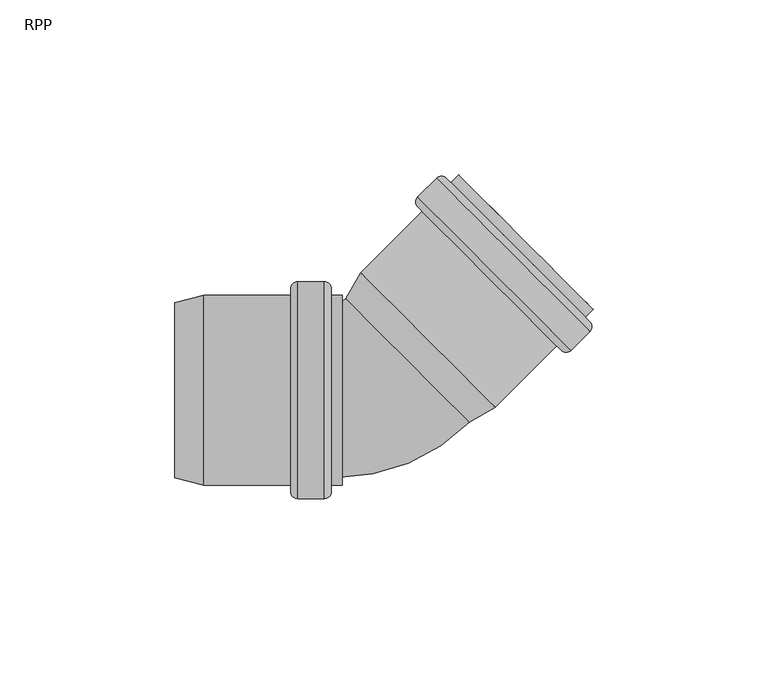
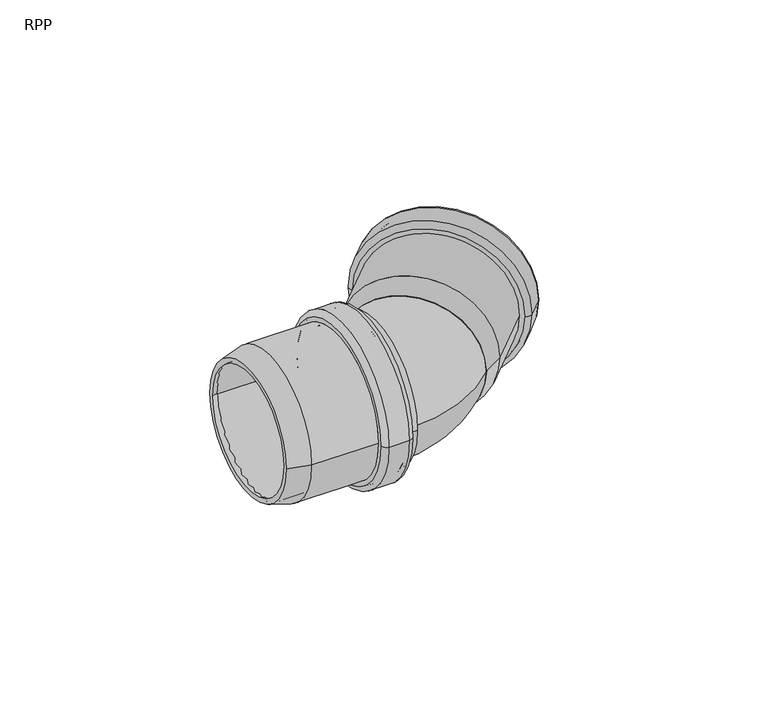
"""IFC4 building model written with IfcOpenShell, lengths in millimetres: pipe fitting geometry, RAUPIANO PLUS Bend : RPP."""

from ifc_helpers import new_model, si_unit, point, frame, origin, place, context, project, spatial, polyline, circle_curve, ellipse_curve, trimmed, source, transform, mapped, element, save
from ifc_brep_helpers import plane_surface, cylinder_surface, revolved_surface, advanced_brep


def rpp_5285ed11(model_context):
    return source(origin(), model_context, "Body", "AdvancedBrep", [
        advanced_brep(
        [(-23.0121933, -25.3, 0.0), (-23.0121933, 25.3, 0.0), (-49.5515418, 25.3, 0.0), (-49.5515418, -25.3, 0.0), (-22.5121933, -29.1, 0.0), (-22.5121933, 29.1, 0.0), (-23.0121933, 28.6, 0.0), (-23.0121933, -28.6, 0.0), (-15.7121933, -29.1, 0.0), (-15.7121933, 29.1, 0.0), (-15.2121933, -28.6, 0.0), (-15.2121933, 28.6, 0.0), (-10.2121933, -25.3, 0.0), (-10.2121933, 25.3, 0.0), (-15.2121933, 25.3, 0.0), (-15.2121933, -25.3, 0.0), (-13.3121933, -27.2, 0.0), (-13.3121933, 27.2, 0.0), (-10.2121933, 27.2, 0.0), (-10.2121933, -27.2, 0.0), (-15.3121933, -31.0, 0.0), (-15.3121933, 31.0, 0.0), (-13.3121933, 29.0, 0.0), (-13.3121933, -29.0, 0.0), (-22.9121933, -31.0, 0.0), (-22.9121933, 31.0, 0.0), (-24.9121933, -29.0, 0.0), (-24.9121933, 29.0, 0.0), (-49.8016815, -27.2, 0.0), (-49.8016815, 27.2, 0.0), (-24.9121933, 27.2, 0.0), (-24.9121933, -27.2, 0.0), (-58.0121933, -25.0, 0.0), (-58.0121933, 25.0, 0.0), (-58.0121933, 23.0329753, 0.0), (-58.0121933, -23.0329753, 0.0)],
        [
            (0, 1, circle_curve(frame((-23.0121933, 0.0, 0.0), z_axis=(1.0, 0.0, 0.0), x_axis=(0.0, 1.0, 0.0)), 25.3)),
            (1, 2),
            (2, 3, circle_curve(frame((-49.5515418, 0.0, 0.0), z_axis=(-1.0, 0.0, 0.0), x_axis=(0.0, 1.0, 0.0)), 25.3)),
            (3, 0),
            (4, 5, circle_curve(frame((-22.5121933, 0.0, 0.0), z_axis=(1.0, 0.0, 0.0), x_axis=(0.0, 1.0, 0.0)), 29.1)),
            (5, 6, circle_curve(frame((-22.5121933, 28.6, 0.0), z_axis=(0.0, 0.0, 1.0), x_axis=(0.0, -1.0, 0.0)), 0.5)),
            (6, 7, circle_curve(frame((-23.0121933, 0.0, 0.0), z_axis=(-1.0, 0.0, 0.0), x_axis=(0.0, 1.0, 0.0)), 28.6)),
            (7, 4, circle_curve(frame((-22.5121933, -28.6, 0.0), z_axis=(0.0, 0.0, 1.0), x_axis=(0.0, 1.0, 0.0)), 0.5)),
            (8, 9, circle_curve(frame((-15.7121933, 0.0, 0.0), z_axis=(1.0, 0.0, 0.0), x_axis=(0.0, 1.0, 0.0)), 29.1)),
            (9, 5),
            (4, 8),
            (10, 11, circle_curve(frame((-15.2121933, 0.0, 0.0), z_axis=(1.0, 0.0, 0.0), x_axis=(0.0, 1.0, 0.0)), 28.6)),
            (11, 9, circle_curve(frame((-15.7121933, 28.6, 0.0), z_axis=(0.0, 0.0, 1.0), x_axis=(0.0, -1.0, 0.0)), 0.5)),
            (8, 10, circle_curve(frame((-15.7121933, -28.6, 0.0), z_axis=(0.0, 0.0, 1.0), x_axis=(0.0, 1.0, 0.0)), 0.5)),
            (12, 13, circle_curve(frame((-10.2121933, 0.0, 0.0), z_axis=(1.0, 0.0, 0.0), x_axis=(0.0, 1.0, 0.0)), 25.3)),
            (13, 14),
            (14, 15, circle_curve(frame((-15.2121933, 0.0, 0.0), z_axis=(-1.0, 0.0, 0.0), x_axis=(0.0, 1.0, 0.0)), 25.3)),
            (15, 12),
            (16, 17, circle_curve(frame((-13.3121933, 0.0, 0.0), z_axis=(1.0, 0.0, 0.0), x_axis=(0.0, 1.0, 0.0)), 27.2)),
            (17, 18),
            (18, 19, circle_curve(frame((-10.2121933, 0.0, 0.0), z_axis=(-1.0, 0.0, 0.0), x_axis=(0.0, 1.0, 0.0)), 27.2)),
            (19, 16),
            (20, 21, circle_curve(frame((-15.3121933, 0.0, 0.0), z_axis=(1.0, 0.0, 0.0), x_axis=(0.0, 1.0, 0.0)), 31.0)),
            (21, 22, circle_curve(frame((-15.3121933, 29.0, 0.0), z_axis=(0.0, 0.0, -1.0), x_axis=(0.0, -1.0, 0.0)), 2.0)),
            (22, 23, circle_curve(frame((-13.3121933, 0.0, 0.0), z_axis=(-1.0, 0.0, 0.0), x_axis=(0.0, 1.0, 0.0)), 29.0)),
            (23, 20, circle_curve(frame((-15.3121933, -29.0, 0.0), z_axis=(0.0, 0.0, -1.0), x_axis=(0.0, 1.0, 0.0)), 2.0)),
            (24, 25, circle_curve(frame((-22.9121933, 0.0, 0.0), z_axis=(1.0, 0.0, 0.0), x_axis=(0.0, 1.0, 0.0)), 31.0)),
            (25, 21),
            (20, 24),
            (26, 27, circle_curve(frame((-24.9121933, 0.0, 0.0), z_axis=(1.0, 0.0, 0.0), x_axis=(0.0, 1.0, 0.0)), 29.0)),
            (27, 25, circle_curve(frame((-22.9121933, 29.0, 0.0), z_axis=(0.0, 0.0, -1.0), x_axis=(0.0, -1.0, 0.0)), 2.0)),
            (24, 26, circle_curve(frame((-22.9121933, -29.0, 0.0), z_axis=(0.0, 0.0, -1.0), x_axis=(0.0, 1.0, 0.0)), 2.0)),
            (28, 29, circle_curve(frame((-49.8016815, 0.0, 0.0), z_axis=(1.0, 0.0, 0.0), x_axis=(0.0, 1.0, 0.0)), 27.2)),
            (29, 30),
            (30, 31, circle_curve(frame((-24.9121933, 0.0, 0.0), z_axis=(-1.0, 0.0, 0.0), x_axis=(0.0, 1.0, 0.0)), 27.2)),
            (31, 28),
            (32, 33, circle_curve(frame((-58.0121933, 0.0, 0.0), z_axis=(1.0, 0.0, 0.0), x_axis=(0.0, 1.0, 0.0)), 25.0)),
            (33, 29),
            (28, 32),
            (2, 34),
            (34, 35, circle_curve(frame((-58.0121933, 0.0, 0.0), z_axis=(-1.0, 0.0, 0.0), x_axis=(0.0, 1.0, 0.0)), 23.0329753)),
            (35, 3),
            (1, 0, circle_curve(frame((-23.0121933, 0.0, 0.0), z_axis=(1.0, 0.0, 0.0), x_axis=(0.0, -1.0, 0.0)), 25.3)),
            (3, 2, circle_curve(frame((-49.5515418, 0.0, 0.0), z_axis=(-1.0, 0.0, 0.0), x_axis=(0.0, -1.0, 0.0)), 25.3)),
            (6, 7, circle_curve(frame((-23.0121933, 0.0, 0.0), z_axis=(1.0, 0.0, 0.0), x_axis=(0.0, -1.0, 0.0)), 28.6)),
            (5, 4, circle_curve(frame((-22.5121933, 0.0, 0.0), z_axis=(1.0, 0.0, 0.0), x_axis=(0.0, -1.0, 0.0)), 29.1)),
            (9, 8, circle_curve(frame((-15.7121933, 0.0, 0.0), z_axis=(1.0, 0.0, 0.0), x_axis=(0.0, -1.0, 0.0)), 29.1)),
            (11, 10, circle_curve(frame((-15.2121933, 0.0, 0.0), z_axis=(1.0, 0.0, 0.0), x_axis=(0.0, -1.0, 0.0)), 28.6)),
            (14, 15, circle_curve(frame((-15.2121933, 0.0, 0.0), z_axis=(1.0, 0.0, 0.0), x_axis=(0.0, -1.0, 0.0)), 25.3)),
            (13, 12, circle_curve(frame((-10.2121933, 0.0, 0.0), z_axis=(1.0, 0.0, 0.0), x_axis=(0.0, -1.0, 0.0)), 25.3)),
            (18, 19, circle_curve(frame((-10.2121933, 0.0, 0.0), z_axis=(1.0, 0.0, 0.0), x_axis=(0.0, -1.0, 0.0)), 27.2)),
            (17, 16, circle_curve(frame((-13.3121933, 0.0, 0.0), z_axis=(1.0, 0.0, 0.0), x_axis=(0.0, -1.0, 0.0)), 27.2)),
            (22, 23, circle_curve(frame((-13.3121933, 0.0, 0.0), z_axis=(1.0, 0.0, 0.0), x_axis=(0.0, -1.0, 0.0)), 29.0)),
            (21, 20, circle_curve(frame((-15.3121933, 0.0, 0.0), z_axis=(1.0, 0.0, 0.0), x_axis=(0.0, -1.0, 0.0)), 31.0)),
            (25, 24, circle_curve(frame((-22.9121933, 0.0, 0.0), z_axis=(1.0, 0.0, 0.0), x_axis=(0.0, -1.0, 0.0)), 31.0)),
            (27, 26, circle_curve(frame((-24.9121933, 0.0, 0.0), z_axis=(1.0, 0.0, 0.0), x_axis=(0.0, -1.0, 0.0)), 29.0)),
            (30, 31, circle_curve(frame((-24.9121933, 0.0, 0.0), z_axis=(1.0, 0.0, 0.0), x_axis=(0.0, -1.0, 0.0)), 27.2)),
            (29, 28, circle_curve(frame((-49.8016815, 0.0, 0.0), z_axis=(1.0, 0.0, 0.0), x_axis=(0.0, -1.0, 0.0)), 27.2)),
            (33, 32, circle_curve(frame((-58.0121933, 0.0, 0.0), z_axis=(1.0, 0.0, 0.0), x_axis=(0.0, -1.0, 0.0)), 25.0)),
            (34, 35, circle_curve(frame((-58.0121933, 0.0, 0.0), z_axis=(1.0, 0.0, 0.0), x_axis=(0.0, -1.0, 0.0)), 23.0329753)),
        ],
        [
            revolved_surface(polyline([(-49.5515418, 25.3, 0.0), (-23.0121933, 25.3, 0.0)]), (-58.0121933, 0.0, 0.0), (-1.0, 0.0, 0.0)),
            revolved_surface(trimmed(ellipse_curve(frame((-22.5121933, 28.6, 0.0), z_axis=(0.0, 0.0, -1.0), x_axis=(0.0, -1.0, 0.0)), 0.5, 0.5), [point((-23.0121933, 28.6, 0.0))], [point((-22.5121933, 29.1, 0.0))], True, "CARTESIAN"), (-58.0121933, 0.0, 0.0), (-1.0, 0.0, 0.0)),
            revolved_surface(polyline([(-22.5121933, 29.1, 0.0), (-15.712193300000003, 29.1, 0.0)]), (-58.0121933, 0.0, 0.0), (-1.0, 0.0, 0.0)),
            revolved_surface(trimmed(ellipse_curve(frame((-15.7121933, 28.6, 0.0), z_axis=(0.0, 0.0, -1.0), x_axis=(0.0, -1.0, 0.0)), 0.5, 0.5), [point((-15.7121933, 29.1, 0.0))], [point((-15.2121933, 28.6, 0.0))], True, "CARTESIAN"), (-58.0121933, 0.0, 0.0), (-1.0, 0.0, 0.0)),
            revolved_surface(polyline([(-15.212193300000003, 25.3, 0.0), (-10.212193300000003, 25.3, 0.0)]), (-58.0121933, 0.0, 0.0), (-1.0, 0.0, 0.0)),
            cylinder_surface(frame((-58.0121933, 0.0, 0.0), z_axis=(-1.0, 0.0, 0.0), x_axis=(0.0, 1.0, 0.0)), 27.2),
            revolved_surface(trimmed(ellipse_curve(frame((-15.3121933, 29.0, 0.0), z_axis=(0.0, 0.0, 1.0), x_axis=(0.0, -1.0, 0.0)), 2.0, 2.0), [point((-13.3121933, 29.0, 0.0))], [point((-15.3121933, 31.0, 0.0))], True, "CARTESIAN"), (-58.0121933, 0.0, 0.0), (-1.0, 0.0, 0.0)),
            cylinder_surface(frame((-58.0121933, 0.0, 0.0), z_axis=(-1.0, 0.0, 0.0), x_axis=(0.0, 1.0, 0.0)), 31.0),
            revolved_surface(trimmed(ellipse_curve(frame((-22.9121933, 29.0, 0.0), z_axis=(0.0, 0.0, 1.0), x_axis=(0.0, -1.0, 0.0)), 2.0, 2.0), [point((-22.9121933, 31.0, 0.0))], [point((-24.9121933, 29.0, 0.0))], True, "CARTESIAN"), (-58.0121933, 0.0, 0.0), (-1.0, 0.0, 0.0)),
            revolved_surface(polyline([(-49.8016815, 27.2, 0.0), (-58.0121933, 25.0, 0.0)]), (-58.0121933, 0.0, 0.0), (-1.0, 0.0, 0.0)),
            revolved_surface(polyline([(-58.0121933, 23.0329753, 0.0), (-49.5515418, 25.3, 0.0)]), (-58.0121933, 0.0, 0.0), (-1.0, 0.0, 0.0)),
            revolved_surface(polyline([(-49.5515418, -25.3, 0.0), (-23.0121933, -25.3, 0.0)]), (-58.0121933, 0.0, 0.0), (-1.0, 0.0, 0.0)),
            plane_surface(frame((-23.0121933, 0.0, 0.0), z_axis=(1.0, 0.0, 0.0), x_axis=(0.0, -1.0, 0.0))),
            revolved_surface(trimmed(ellipse_curve(frame((-22.5121933, -28.6, 0.0), z_axis=(0.0, 0.0, 1.0), x_axis=(0.0, 1.0, 0.0)), 0.5, 0.5), [point((-23.0121933, -28.6, 0.0))], [point((-22.5121933, -29.1, 0.0))], True, "CARTESIAN"), (-58.0121933, 0.0, 0.0), (-1.0, 0.0, 0.0)),
            revolved_surface(polyline([(-22.5121933, -29.1, 0.0), (-15.712193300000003, -29.1, 0.0)]), (-58.0121933, 0.0, 0.0), (-1.0, 0.0, 0.0)),
            revolved_surface(trimmed(ellipse_curve(frame((-15.7121933, -28.6, 0.0), z_axis=(0.0, 0.0, 1.0), x_axis=(0.0, 1.0, 0.0)), 0.5, 0.5), [point((-15.7121933, -29.1, 0.0))], [point((-15.2121933, -28.6, 0.0))], True, "CARTESIAN"), (-58.0121933, 0.0, 0.0), (-1.0, 0.0, 0.0)),
            plane_surface(frame((-15.2121933, 0.0, 0.0), z_axis=(-1.0, 0.0, 0.0), x_axis=(0.0, -1.0, 0.0))),
            revolved_surface(polyline([(-15.212193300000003, -25.3, 0.0), (-10.212193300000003, -25.3, 0.0)]), (-58.0121933, 0.0, 0.0), (-1.0, 0.0, 0.0)),
            plane_surface(frame((-10.2121933, 0.0, 0.0), z_axis=(1.0, 0.0, 0.0), x_axis=(0.0, -1.0, 0.0))),
            cylinder_surface(frame((-58.0121933, 0.0, 0.0), z_axis=(-1.0, 0.0, 0.0), x_axis=(0.0, -1.0, 0.0)), 27.2),
            plane_surface(frame((-13.3121933, 0.0, 0.0), z_axis=(1.0, 0.0, 0.0), x_axis=(0.0, -1.0, 0.0))),
            revolved_surface(trimmed(ellipse_curve(frame((-15.3121933, -29.0, 0.0), z_axis=(0.0, 0.0, -1.0), x_axis=(0.0, 1.0, 0.0)), 2.0, 2.0), [point((-13.3121933, -29.0, 0.0))], [point((-15.3121933, -31.0, 0.0))], True, "CARTESIAN"), (-58.0121933, 0.0, 0.0), (-1.0, 0.0, 0.0)),
            cylinder_surface(frame((-58.0121933, 0.0, 0.0), z_axis=(-1.0, 0.0, 0.0), x_axis=(0.0, -1.0, 0.0)), 31.0),
            revolved_surface(trimmed(ellipse_curve(frame((-22.9121933, -29.0, 0.0), z_axis=(0.0, 0.0, -1.0), x_axis=(0.0, 1.0, 0.0)), 2.0, 2.0), [point((-22.9121933, -31.0, 0.0))], [point((-24.9121933, -29.0, 0.0))], True, "CARTESIAN"), (-58.0121933, 0.0, 0.0), (-1.0, 0.0, 0.0)),
            plane_surface(frame((-24.9121933, 0.0, 0.0), z_axis=(-1.0, 0.0, 0.0), x_axis=(0.0, -1.0, 0.0))),
            revolved_surface(polyline([(-49.8016815, -27.2, 0.0), (-58.0121933, -25.0, 0.0)]), (-58.0121933, 0.0, 0.0), (-1.0, 0.0, 0.0)),
            plane_surface(frame((-58.0121933, 0.0, 0.0), z_axis=(-1.0, 0.0, 0.0), x_axis=(0.0, -1.0, 0.0))),
            revolved_surface(polyline([(-58.0121933, -23.0329753, 0.0), (-49.5515418, -25.3, 0.0)]), (-58.0121933, 0.0, 0.0), (-1.0, 0.0, 0.0)),
        ],
        [
            (0, [[1, 2, 3, 4]]),
            (1, [[5, 6, 7, 8]]),
            (2, [[9, 10, -5, 11]]),
            (3, [[12, 13, -9, 14]]),
            (4, [[15, 16, 17, 18]]),
            (5, [[19, 20, 21, 22]]),
            (6, [[23, 24, 25, 26]]),
            (7, [[27, 28, -23, 29]]),
            (8, [[30, 31, -27, 32]]),
            (5, [[33, 34, 35, 36]]),
            (9, [[37, 38, -33, 39]]),
            (10, [[-3, 40, 41, 42]]),
            (11, [[43, -4, 44, -2]]),
            (12, [[45, -7], [-43, -1]]),
            (13, [[46, -8, -45, -6]]),
            (14, [[47, -11, -46, -10]]),
            (15, [[48, -14, -47, -13]]),
            (16, [[-48, -12], [49, -17]]),
            (17, [[50, -18, -49, -16]]),
            (18, [[51, -21], [-50, -15]]),
            (19, [[52, -22, -51, -20]]),
            (20, [[53, -25], [-52, -19]]),
            (21, [[54, -26, -53, -24]]),
            (22, [[55, -29, -54, -28]]),
            (23, [[56, -32, -55, -31]]),
            (24, [[-56, -30], [57, -35]]),
            (19, [[58, -36, -57, -34]]),
            (25, [[59, -39, -58, -38]]),
            (26, [[-59, -37], [60, -41]]),
            (27, [[-44, -42, -60, -40]]),
        ],
    ),
        advanced_brep(
        [(24.7806763, -7.7928696, 0.0), (-7.7928696, 24.7806763, 0.0), (-3.4133142, 32.366289, 0.0), (32.366289, -3.4133142, 0.0), (33.5329163, -4.9336925, 0.0), (-4.9336925, 33.5329163, 0.0), (-9.1837662, 26.1715729, 0.0), (26.1715729, -9.1837662, 0.0), (51.1324423, 12.6658334, 0.0), (12.6658334, 51.1324423, 0.0), (60.6076731, 16.7670527, 0.0), (16.7670527, 60.6076731, 0.0), (11.3930411, 55.2336616, 0.0), (55.2336616, 11.3930411, 0.0), (61.5269119, 23.060303, 0.0), (23.060303, 61.5269119, 0.0), (20.868272, 59.3348809, 0.0), (59.3348809, 20.868272, 0.0), (56.6478751, 20.868272, 0.0), (20.868272, 56.6478751, 0.0), (24.4038059, 60.1834091, 0.0), (60.1834091, 24.4038059, 0.0), (54.1730014, 13.0193867, 0.0), (13.0193867, 54.1730014, 0.0), (17.8277129, 58.9813275, 0.0), (58.9813275, 17.8277129, 0.0), (15.3528391, 51.1324423, 0.0), (51.1324423, 15.3528391, 0.0), (11.3930411, 52.4052345, 0.0), (52.4052345, 11.3930411, 0.0), (60.6076731, 19.5954798, 0.0), (19.5954798, 60.6076731, 0.0), (18.5348196, 58.9813275, 0.0), (58.9813275, 18.5348196, 0.0), (53.4658946, 13.0193867, 0.0), (13.0193867, 53.4658946, 0.0)],
        [
            (0, 1, circle_curve(frame((8.4939033, 8.4939033, 0.0), z_axis=(-0.7071067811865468, -0.7071067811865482, 0.0), x_axis=(-0.7071067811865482, 0.7071067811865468, 0.0)), 23.0329753)),
            (1, 2),
            (2, 3, circle_curve(frame((14.4764874, 14.4764874, 0.0), z_axis=(0.7071067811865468, 0.7071067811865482, 0.0), x_axis=(-0.7071067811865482, 0.7071067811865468, 0.0)), 25.3)),
            (3, 0),
            (4, 5, circle_curve(frame((14.2996119, 14.2996119, 0.0), z_axis=(-0.7071067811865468, -0.7071067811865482, 0.0), x_axis=(-0.7071067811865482, 0.7071067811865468, 0.0)), 27.2)),
            (5, 6),
            (6, 7, circle_curve(frame((8.4939033, 8.4939033, 0.0), z_axis=(0.7071067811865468, 0.7071067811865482, 0.0), x_axis=(-0.7071067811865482, 0.7071067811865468, 0.0)), 25.0)),
            (7, 4),
            (8, 9, circle_curve(frame((31.8991378, 31.8991378, 0.0), z_axis=(-0.7071067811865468, -0.7071067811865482, 0.0), x_axis=(-0.7071067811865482, 0.7071067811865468, 0.0)), 27.2)),
            (9, 5),
            (4, 8),
            (10, 11, circle_curve(frame((38.6873629, 38.6873629, 0.0), z_axis=(-0.7071067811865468, -0.7071067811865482, 0.0), x_axis=(-0.7071067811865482, 0.7071067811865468, 0.0)), 31.0)),
            (11, 12),
            (12, 13, circle_curve(frame((33.3133514, 33.3133514, 0.0), z_axis=(0.7071067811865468, 0.7071067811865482, 0.0), x_axis=(-0.7071067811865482, 0.7071067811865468, 0.0)), 31.0)),
            (13, 10),
            (14, 15, circle_curve(frame((42.2936075, 42.2936075, 0.0), z_axis=(-0.7071067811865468, -0.7071067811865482, 0.0), x_axis=(-0.7071067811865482, 0.7071067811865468, 0.0)), 27.2)),
            (15, 16),
            (16, 17, circle_curve(frame((40.1015765, 40.1015765, 0.0), z_axis=(0.7071067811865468, 0.7071067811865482, 0.0), x_axis=(-0.7071067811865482, 0.7071067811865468, 0.0)), 27.2)),
            (17, 14),
            (18, 19, circle_curve(frame((38.7580736, 38.7580736, 0.0), z_axis=(-0.7071067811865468, -0.7071067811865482, 0.0), x_axis=(-0.7071067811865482, 0.7071067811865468, 0.0)), 25.3)),
            (19, 20),
            (20, 21, circle_curve(frame((42.2936075, 42.2936075, 0.0), z_axis=(0.7071067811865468, 0.7071067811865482, 0.0), x_axis=(-0.7071067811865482, 0.7071067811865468, 0.0)), 25.3)),
            (21, 18),
            (22, 23, circle_curve(frame((33.5961941, 33.5961941, 0.0), z_axis=(-0.7071067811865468, -0.7071067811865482, 0.0), x_axis=(-0.7071067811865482, 0.7071067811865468, 0.0)), 29.1)),
            (23, 24),
            (24, 25, circle_curve(frame((38.4045202, 38.4045202, 0.0), z_axis=(0.7071067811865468, 0.7071067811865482, 0.0), x_axis=(-0.7071067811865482, 0.7071067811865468, 0.0)), 29.1)),
            (25, 22),
            (2, 26),
            (26, 27, circle_curve(frame((33.2426407, 33.2426407, 0.0), z_axis=(0.7071067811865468, 0.7071067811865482, 0.0), x_axis=(-0.7071067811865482, 0.7071067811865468, 0.0)), 25.3)),
            (27, 3),
            (1, 0, circle_curve(frame((8.4939033, 8.4939033, 0.0), z_axis=(-0.7071067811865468, -0.7071067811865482, 0.0), x_axis=(0.7071067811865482, -0.7071067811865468, 0.0)), 23.0329753)),
            (3, 2, circle_curve(frame((14.4764874, 14.4764874, 0.0), z_axis=(0.7071067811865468, 0.7071067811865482, 0.0), x_axis=(0.7071067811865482, -0.7071067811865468, 0.0)), 25.3)),
            (6, 7, circle_curve(frame((8.4939033, 8.4939033, 0.0), z_axis=(-0.7071067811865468, -0.7071067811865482, 0.0), x_axis=(0.7071067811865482, -0.7071067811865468, 0.0)), 25.0)),
            (5, 4, circle_curve(frame((14.2996119, 14.2996119, 0.0), z_axis=(-0.7071067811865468, -0.7071067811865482, 0.0), x_axis=(0.7071067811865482, -0.7071067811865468, 0.0)), 27.2)),
            (9, 8, circle_curve(frame((31.8991378, 31.8991378, 0.0), z_axis=(-0.7071067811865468, -0.7071067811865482, 0.0), x_axis=(0.7071067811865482, -0.7071067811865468, 0.0)), 27.2)),
            (28, 29, circle_curve(frame((31.8991378, 31.8991378, 0.0), z_axis=(-0.7071067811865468, -0.7071067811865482, 0.0), x_axis=(0.7071067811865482, -0.7071067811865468, 0.0)), 29.0)),
            (29, 28, circle_curve(frame((31.8991378, 31.8991378, 0.0), z_axis=(-0.7071067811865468, -0.7071067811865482, 0.0), x_axis=(-0.7071067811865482, 0.7071067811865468, 0.0)), 29.0)),
            (11, 10, circle_curve(frame((38.6873629, 38.6873629, 0.0), z_axis=(-0.7071067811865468, -0.7071067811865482, 0.0), x_axis=(0.7071067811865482, -0.7071067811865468, 0.0)), 31.0)),
            (13, 12, circle_curve(frame((33.3133514, 33.3133514, 0.0), z_axis=(0.7071067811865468, 0.7071067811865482, 0.0), x_axis=(0.7071067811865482, -0.7071067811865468, 0.0)), 31.0)),
            (30, 31, circle_curve(frame((40.1015765, 40.1015765, 0.0), z_axis=(0.7071067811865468, 0.7071067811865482, 0.0), x_axis=(0.7071067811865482, -0.7071067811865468, 0.0)), 29.0)),
            (31, 30, circle_curve(frame((40.1015765, 40.1015765, 0.0), z_axis=(0.7071067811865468, 0.7071067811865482, 0.0), x_axis=(-0.7071067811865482, 0.7071067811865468, 0.0)), 29.0)),
            (16, 17, circle_curve(frame((40.1015765, 40.1015765, 0.0), z_axis=(-0.7071067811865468, -0.7071067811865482, 0.0), x_axis=(0.7071067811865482, -0.7071067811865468, 0.0)), 27.2)),
            (15, 14, circle_curve(frame((42.2936075, 42.2936075, 0.0), z_axis=(-0.7071067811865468, -0.7071067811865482, 0.0), x_axis=(0.7071067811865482, -0.7071067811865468, 0.0)), 27.2)),
            (20, 21, circle_curve(frame((42.2936075, 42.2936075, 0.0), z_axis=(-0.7071067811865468, -0.7071067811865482, 0.0), x_axis=(0.7071067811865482, -0.7071067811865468, 0.0)), 25.3)),
            (19, 18, circle_curve(frame((38.7580736, 38.7580736, 0.0), z_axis=(-0.7071067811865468, -0.7071067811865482, 0.0), x_axis=(0.7071067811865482, -0.7071067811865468, 0.0)), 25.3)),
            (32, 33, circle_curve(frame((38.7580736, 38.7580736, 0.0), z_axis=(-0.7071067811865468, -0.7071067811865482, 0.0), x_axis=(0.7071067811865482, -0.7071067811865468, 0.0)), 28.6)),
            (33, 32, circle_curve(frame((38.7580736, 38.7580736, 0.0), z_axis=(-0.7071067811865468, -0.7071067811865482, 0.0), x_axis=(-0.7071067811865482, 0.7071067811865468, 0.0)), 28.6)),
            (23, 22, circle_curve(frame((33.5961941, 33.5961941, 0.0), z_axis=(-0.7071067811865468, -0.7071067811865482, 0.0), x_axis=(0.7071067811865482, -0.7071067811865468, 0.0)), 29.1)),
            (25, 24, circle_curve(frame((38.4045202, 38.4045202, 0.0), z_axis=(0.7071067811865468, 0.7071067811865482, 0.0), x_axis=(0.7071067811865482, -0.7071067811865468, 0.0)), 29.1)),
            (34, 35, circle_curve(frame((33.2426407, 33.2426407, 0.0), z_axis=(0.7071067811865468, 0.7071067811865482, 0.0), x_axis=(0.7071067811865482, -0.7071067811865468, 0.0)), 28.6)),
            (35, 34, circle_curve(frame((33.2426407, 33.2426407, 0.0), z_axis=(0.7071067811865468, 0.7071067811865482, 0.0), x_axis=(-0.7071067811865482, 0.7071067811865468, 0.0)), 28.6)),
            (26, 27, circle_curve(frame((33.2426407, 33.2426407, 0.0), z_axis=(-0.7071067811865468, -0.7071067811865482, 0.0), x_axis=(0.7071067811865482, -0.7071067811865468, 0.0)), 25.3)),
            (12, 28, circle_curve(frame((12.8072547, 53.819448, 0.0), z_axis=(0.0, 0.0, 1.0), x_axis=(0.7071067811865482, -0.7071067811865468, 0.0)), 2.0)),
            (29, 13, circle_curve(frame((53.819448, 12.8072547, 0.0), z_axis=(0.0, 0.0, 1.0), x_axis=(-0.7071067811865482, 0.7071067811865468, 0.0)), 2.0)),
            (31, 11, circle_curve(frame((18.1812662, 59.1934596, 0.0), z_axis=(0.0, 0.0, 1.0), x_axis=(0.7071067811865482, -0.7071067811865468, 0.0)), 2.0)),
            (10, 30, circle_curve(frame((59.1934596, 18.1812662, 0.0), z_axis=(0.0, 0.0, 1.0), x_axis=(-0.7071067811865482, 0.7071067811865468, 0.0)), 2.0)),
            (24, 32, circle_curve(frame((18.1812662, 58.6277741, 0.0), z_axis=(0.0, 0.0, -1.0), x_axis=(0.7071067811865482, -0.7071067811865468, 0.0)), 0.5)),
            (33, 25, circle_curve(frame((58.6277741, 18.1812662, 0.0), z_axis=(0.0, 0.0, -1.0), x_axis=(-0.7071067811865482, 0.7071067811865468, 0.0)), 0.5)),
            (35, 23, circle_curve(frame((13.3729401, 53.819448, 0.0), z_axis=(0.0, 0.0, -1.0), x_axis=(0.7071067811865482, -0.7071067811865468, 0.0)), 0.5)),
            (22, 34, circle_curve(frame((53.819448, 13.3729401, 0.0), z_axis=(0.0, 0.0, -1.0), x_axis=(-0.7071067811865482, 0.7071067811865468, 0.0)), 0.5)),
        ],
        [
            revolved_surface(polyline([(-3.4133142, 32.366289, 0.0), (-7.7928696, 24.7806763, 0.0)]), (8.4939033, 8.4939033, 0.0), (0.7071067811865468, 0.7071067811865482, 0.0)),
            revolved_surface(polyline([(-9.1837662, 26.1715729, 0.0), (-4.9336925, 33.5329163, 0.0)]), (8.4939033, 8.4939033, 0.0), (0.7071067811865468, 0.7071067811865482, 0.0)),
            cylinder_surface(frame((8.4939033, 8.4939033, 0.0), z_axis=(0.7071067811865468, 0.7071067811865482, 0.0), x_axis=(-0.7071067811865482, 0.7071067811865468, 0.0)), 27.2),
            cylinder_surface(frame((8.4939033, 8.4939033, 0.0), z_axis=(0.7071067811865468, 0.7071067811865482, 0.0), x_axis=(-0.7071067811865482, 0.7071067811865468, 0.0)), 31.0),
            revolved_surface(polyline([(24.403805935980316, 60.183409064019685, 0.0), (20.86827198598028, 56.64787511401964, 0.0)]), (8.4939033, 8.4939033, 0.0), (0.7071067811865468, 0.7071067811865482, 0.0)),
            revolved_surface(polyline([(17.827712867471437, 58.98132753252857, 0.0), (13.019386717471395, 54.17300138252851, 0.0)]), (8.4939033, 8.4939033, 0.0), (0.7071067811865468, 0.7071067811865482, 0.0)),
            revolved_surface(polyline([(15.352839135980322, 51.13244226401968, 0.0), (-3.4133141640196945, 32.366288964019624, 0.0)]), (8.4939033, 8.4939033, 0.0), (0.7071067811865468, 0.7071067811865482, 0.0)),
            revolved_surface(polyline([(32.366289, -3.4133142, 0.0), (24.7806763, -7.7928696, 0.0)]), (8.4939033, 8.4939033, 0.0), (0.7071067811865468, 0.7071067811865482, 0.0)),
            plane_surface(frame((8.4939033, 8.4939033, 0.0), z_axis=(-0.7071067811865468, -0.7071067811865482, 0.0), x_axis=(0.7071067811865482, -0.7071067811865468, 0.0))),
            revolved_surface(polyline([(26.1715729, -9.1837662, 0.0), (33.5329163, -4.9336925, 0.0)]), (8.4939033, 8.4939033, 0.0), (0.7071067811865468, 0.7071067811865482, 0.0)),
            cylinder_surface(frame((8.4939033, 8.4939033, 0.0), z_axis=(0.7071067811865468, 0.7071067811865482, 0.0), x_axis=(0.7071067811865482, -0.7071067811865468, 0.0)), 27.2),
            plane_surface(frame((31.8991378, 31.8991378, 0.0), z_axis=(-0.7071067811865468, -0.7071067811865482, 0.0), x_axis=(0.7071067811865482, -0.7071067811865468, 0.0))),
            cylinder_surface(frame((8.4939033, 8.4939033, 0.0), z_axis=(0.7071067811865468, 0.7071067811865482, 0.0), x_axis=(0.7071067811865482, -0.7071067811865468, 0.0)), 31.0),
            plane_surface(frame((40.1015765, 40.1015765, 0.0), z_axis=(0.7071067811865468, 0.7071067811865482, 0.0), x_axis=(0.7071067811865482, -0.7071067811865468, 0.0))),
            plane_surface(frame((42.2936075, 42.2936075, 0.0), z_axis=(0.7071067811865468, 0.7071067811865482, 0.0), x_axis=(0.7071067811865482, -0.7071067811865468, 0.0))),
            revolved_surface(polyline([(60.183409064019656, 24.403805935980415, 0.0), (56.64787511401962, 20.868271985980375, 0.0)]), (8.4939033, 8.4939033, 0.0), (0.7071067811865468, 0.7071067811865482, 0.0)),
            plane_surface(frame((38.7580736, 38.7580736, 0.0), z_axis=(-0.7071067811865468, -0.7071067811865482, 0.0), x_axis=(0.7071067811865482, -0.7071067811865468, 0.0))),
            revolved_surface(polyline([(58.98132753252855, 17.82771286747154, 0.0), (54.17300138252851, 13.019386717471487, 0.0)]), (8.4939033, 8.4939033, 0.0), (0.7071067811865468, 0.7071067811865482, 0.0)),
            plane_surface(frame((33.2426407, 33.2426407, 0.0), z_axis=(0.7071067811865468, 0.7071067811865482, 0.0), x_axis=(0.7071067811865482, -0.7071067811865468, 0.0))),
            revolved_surface(polyline([(51.13244226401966, 15.35283913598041, 0.0), (32.366288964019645, -3.4133141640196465, 0.0)]), (8.4939033, 8.4939033, 0.0), (0.7071067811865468, 0.7071067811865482, 0.0)),
            revolved_surface(trimmed(ellipse_curve(frame((12.8072547, 53.819448, 0.0), z_axis=(0.0, 0.0, -1.0), x_axis=(0.7071067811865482, -0.7071067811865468, 0.0)), 2.0, 2.0), [point((11.3930411, 52.4052345, 0.0))], [point((11.3930411, 55.2336616, 0.0))], True, "CARTESIAN"), (8.4939033, 8.4939033, 0.0), (0.7071067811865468, 0.7071067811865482, 0.0)),
            revolved_surface(trimmed(ellipse_curve(frame((18.1812662, 59.1934596, 0.0), z_axis=(0.0, 0.0, -1.0), x_axis=(0.7071067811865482, -0.7071067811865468, 0.0)), 2.0, 2.0), [point((16.7670527, 60.6076731, 0.0))], [point((19.5954798, 60.6076731, 0.0))], True, "CARTESIAN"), (8.4939033, 8.4939033, 0.0), (0.7071067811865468, 0.7071067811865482, 0.0)),
            revolved_surface(trimmed(ellipse_curve(frame((18.1812662, 58.6277741, 0.0), z_axis=(0.0, 0.0, 1.0), x_axis=(0.7071067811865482, -0.7071067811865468, 0.0)), 0.5, 0.5), [point((18.5348196, 58.9813275, 0.0))], [point((17.8277129, 58.9813275, 0.0))], True, "CARTESIAN"), (8.4939033, 8.4939033, 0.0), (0.7071067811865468, 0.7071067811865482, 0.0)),
            revolved_surface(trimmed(ellipse_curve(frame((13.3729401, 53.819448, 0.0), z_axis=(0.0, 0.0, 1.0), x_axis=(0.7071067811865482, -0.7071067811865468, 0.0)), 0.5, 0.5), [point((13.0193867, 54.1730014, 0.0))], [point((13.0193867, 53.4658946, 0.0))], True, "CARTESIAN"), (8.4939033, 8.4939033, 0.0), (0.7071067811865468, 0.7071067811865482, 0.0)),
            revolved_surface(trimmed(ellipse_curve(frame((53.819448, 12.8072547, 0.0), z_axis=(0.0, 0.0, 1.0), x_axis=(-0.7071067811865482, 0.7071067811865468, 0.0)), 2.0, 2.0), [point((52.4052345, 11.3930411, 0.0))], [point((55.2336616, 11.3930411, 0.0))], True, "CARTESIAN"), (8.4939033, 8.4939033, 0.0), (0.7071067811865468, 0.7071067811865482, 0.0)),
            revolved_surface(trimmed(ellipse_curve(frame((59.1934596, 18.1812662, 0.0), z_axis=(0.0, 0.0, 1.0), x_axis=(-0.7071067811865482, 0.7071067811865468, 0.0)), 2.0, 2.0), [point((60.6076731, 16.7670527, 0.0))], [point((60.6076731, 19.5954798, 0.0))], True, "CARTESIAN"), (8.4939033, 8.4939033, 0.0), (0.7071067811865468, 0.7071067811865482, 0.0)),
            revolved_surface(trimmed(ellipse_curve(frame((58.6277741, 18.1812662, 0.0), z_axis=(0.0, 0.0, -1.0), x_axis=(-0.7071067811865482, 0.7071067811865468, 0.0)), 0.5, 0.5), [point((58.9813275, 18.5348196, 0.0))], [point((58.9813275, 17.8277129, 0.0))], True, "CARTESIAN"), (8.4939033, 8.4939033, 0.0), (0.7071067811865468, 0.7071067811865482, 0.0)),
            revolved_surface(trimmed(ellipse_curve(frame((53.819448, 13.3729401, 0.0), z_axis=(0.0, 0.0, -1.0), x_axis=(-0.7071067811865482, 0.7071067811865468, 0.0)), 0.5, 0.5), [point((54.1730014, 13.0193867, 0.0))], [point((53.4658946, 13.0193867, 0.0))], True, "CARTESIAN"), (8.4939033, 8.4939033, 0.0), (0.7071067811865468, 0.7071067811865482, 0.0)),
        ],
        [
            (0, [[1, 2, 3, 4]]),
            (1, [[5, 6, 7, 8]]),
            (2, [[9, 10, -5, 11]]),
            (3, [[12, 13, 14, 15]]),
            (2, [[16, 17, 18, 19]]),
            (4, [[20, 21, 22, 23]]),
            (5, [[24, 25, 26, 27]]),
            (6, [[-3, 28, 29, 30]]),
            (7, [[31, -4, 32, -2]]),
            (8, [[33, -7], [-31, -1]]),
            (9, [[34, -8, -33, -6]]),
            (10, [[35, -11, -34, -10]]),
            (11, [[36, 37], [-35, -9]]),
            (12, [[38, -15, 39, -13]]),
            (13, [[40, 41], [42, -18]]),
            (10, [[43, -19, -42, -17]]),
            (14, [[-43, -16], [44, -22]]),
            (15, [[45, -23, -44, -21]]),
            (16, [[46, 47], [-45, -20]]),
            (17, [[48, -27, 49, -25]]),
            (18, [[50, 51], [52, -29]]),
            (19, [[-32, -30, -52, -28]]),
            (20, [[-14, 53, -37, 54]]),
            (21, [[-41, 55, -12, 56]]),
            (22, [[-26, 57, -47, 58]]),
            (23, [[-51, 59, -24, 60]]),
            (24, [[-39, -54, -36, -53]]),
            (25, [[-40, -56, -38, -55]]),
            (26, [[-49, -58, -46, -57]]),
            (27, [[-50, -60, -48, -59]]),
        ],
    ),
        advanced_brep(
        [(-12.0121933, 23.2, 0.0), (-12.0121933, -23.2, 0.0), (-58.0121933, -23.2, 0.0), (-58.0121933, 23.2, 0.0), (-54.2801425, 25.0, 0.0), (-54.2801425, -25.0, 0.0), (-12.0121933, -25.0, 0.0), (-12.0121933, 25.0, 0.0), (-58.0121933, 24.0, 0.0), (-58.0121933, -24.0, 0.0)],
        [
            (0, 1, circle_curve(frame((-12.0121933, 0.0, 0.0), z_axis=(1.0, 0.0, 0.0), x_axis=(0.0, -1.0, 0.0)), 23.2)),
            (1, 2),
            (2, 3, circle_curve(frame((-58.0121933, 0.0, 0.0), z_axis=(-1.0, 0.0, 0.0), x_axis=(0.0, -1.0, 0.0)), 23.2)),
            (3, 0),
            (4, 5, circle_curve(frame((-54.2801425, 0.0, 0.0), z_axis=(1.0, 0.0, 0.0), x_axis=(0.0, -1.0, 0.0)), 25.0)),
            (5, 6),
            (6, 7, circle_curve(frame((-12.0121933, 0.0, 0.0), z_axis=(-1.0, 0.0, 0.0), x_axis=(0.0, -1.0, 0.0)), 25.0)),
            (7, 4),
            (8, 9, circle_curve(frame((-58.0121933, 0.0, 0.0), z_axis=(1.0, 0.0, 0.0), x_axis=(0.0, -1.0, 0.0)), 24.0)),
            (9, 5),
            (4, 8),
            (1, 0, circle_curve(frame((-12.0121933, 0.0, 0.0), z_axis=(1.0, 0.0, 0.0), x_axis=(0.0, 1.0, 0.0)), 23.2)),
            (3, 2, circle_curve(frame((-58.0121933, 0.0, 0.0), z_axis=(-1.0, 0.0, 0.0), x_axis=(0.0, 1.0, 0.0)), 23.2)),
            (6, 7, circle_curve(frame((-12.0121933, 0.0, 0.0), z_axis=(1.0, 0.0, 0.0), x_axis=(0.0, 1.0, 0.0)), 25.0)),
            (5, 4, circle_curve(frame((-54.2801425, 0.0, 0.0), z_axis=(1.0, 0.0, 0.0), x_axis=(0.0, 1.0, 0.0)), 25.0)),
            (9, 8, circle_curve(frame((-58.0121933, 0.0, 0.0), z_axis=(1.0, 0.0, 0.0), x_axis=(0.0, 1.0, 0.0)), 24.0)),
        ],
        [
            revolved_surface(polyline([(-58.0121933, -23.2, 0.0), (-12.0121933, -23.2, 0.0)]), (-12.0121933, 0.0, 0.0), (-1.0, 0.0, 0.0)),
            cylinder_surface(frame((-12.0121933, 0.0, 0.0), z_axis=(-1.0, 0.0, 0.0), x_axis=(0.0, -1.0, 0.0)), 25.0),
            revolved_surface(polyline([(-54.2801425, -25.0, 0.0), (-58.0121933, -24.0, 0.0)]), (-12.0121933, 0.0, 0.0), (-1.0, 0.0, 0.0)),
            revolved_surface(polyline([(-58.0121933, 23.2, 0.0), (-12.0121933, 23.2, 0.0)]), (-12.0121933, 0.0, 0.0), (-1.0, 0.0, 0.0)),
            plane_surface(frame((-12.0121933, 0.0, 0.0), z_axis=(1.0, 0.0, 0.0), x_axis=(0.0, 1.0, 0.0))),
            cylinder_surface(frame((-12.0121933, 0.0, 0.0), z_axis=(-1.0, 0.0, 0.0), x_axis=(0.0, 1.0, 0.0)), 25.0),
            revolved_surface(polyline([(-54.2801425, 25.0, 0.0), (-58.0121933, 24.0, 0.0)]), (-12.0121933, 0.0, 0.0), (-1.0, 0.0, 0.0)),
            plane_surface(frame((-58.0121933, 0.0, 0.0), z_axis=(-1.0, 0.0, 0.0), x_axis=(0.0, 1.0, 0.0))),
        ],
        [
            (0, [[1, 2, 3, 4]]),
            (1, [[5, 6, 7, 8]]),
            (2, [[9, 10, -5, 11]]),
            (3, [[12, -4, 13, -2]]),
            (4, [[14, -7], [-12, -1]]),
            (5, [[15, -8, -14, -6]]),
            (6, [[16, -11, -15, -10]]),
            (7, [[-16, -9], [-13, -3]]),
        ],
    ),
        advanced_brep(
        [(-12.0121933, -25.0, 0.0), (-12.0121933, 25.0, 0.0), (-12.0121933, -23.2, 0.0), (-12.0121933, 23.2, 0.0), (26.1715729, -9.1837662, 0.0), (-9.1837662, 26.1715729, 0.0), (24.8987807, -7.910974, 0.0), (-7.910974, 24.8987807, 0.0)],
        [
            (0, 1, circle_curve(frame((-12.0121933, 0.0, 0.0), z_axis=(-1.0, 0.0, 0.0), x_axis=(0.0, 1.0, 0.0)), 25.0)),
            (1, 0, circle_curve(frame((-12.0121933, 0.0, 0.0), z_axis=(-1.0, 0.0, 0.0), x_axis=(0.0, 1.0, 0.0)), 25.0)),
            (2, 3, circle_curve(frame((-12.0121933, 0.0, 0.0), z_axis=(1.0, 0.0, 0.0), x_axis=(0.0, 1.0, 0.0)), 23.2)),
            (3, 2, circle_curve(frame((-12.0121933, 0.0, 0.0), z_axis=(1.0, 0.0, 0.0), x_axis=(0.0, 1.0, 0.0)), 23.2)),
            (4, 5, circle_curve(frame((8.4939033, 8.4939033, 0.0), z_axis=(0.7071067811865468, 0.7071067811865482, 0.0), x_axis=(-0.7071067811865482, 0.7071067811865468, 0.0)), 25.0)),
            (5, 4, circle_curve(frame((8.4939033, 8.4939033, 0.0), z_axis=(0.7071067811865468, 0.7071067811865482, 0.0), x_axis=(-0.7071067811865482, 0.7071067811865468, 0.0)), 25.0)),
            (6, 7, circle_curve(frame((8.4939033, 8.4939033, 0.0), z_axis=(-0.7071067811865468, -0.7071067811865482, 0.0), x_axis=(-0.7071067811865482, 0.7071067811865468, 0.0)), 23.2)),
            (7, 6, circle_curve(frame((8.4939033, 8.4939033, 0.0), z_axis=(-0.7071067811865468, -0.7071067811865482, 0.0), x_axis=(-0.7071067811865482, 0.7071067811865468, 0.0)), 23.2)),
            (7, 3, circle_curve(frame((-12.0121933, 29.0, 0.0), z_axis=(0.0, 0.0, -1.0), x_axis=(0.0, -1.0, 0.0)), 5.8)),
            (2, 6, circle_curve(frame((-12.0121933, 29.0, 0.0), z_axis=(0.0, 0.0, 1.0), x_axis=(0.0, -1.0, 0.0)), 52.2)),
            (5, 1, circle_curve(frame((-12.0121933, 29.0, 0.0), z_axis=(0.0, 0.0, -1.0), x_axis=(0.0, -1.0, 0.0)), 4.0)),
            (0, 4, circle_curve(frame((-12.0121933, 29.0, 0.0), z_axis=(0.0, 0.0, 1.0), x_axis=(0.0, -1.0, 0.0)), 54.0)),
        ],
        [
            plane_surface(frame((-12.0121933, 0.0, 0.0), z_axis=(-1.0, 0.0, 0.0), x_axis=(0.0, 0.0, 1.0))),
            plane_surface(frame((8.4939033, 8.4939033, 0.0), z_axis=(0.7071067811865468, 0.7071067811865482, 0.0), x_axis=(0.0, 0.0, 1.0))),
            revolved_surface(trimmed(ellipse_curve(frame((-12.0121933, 0.0, 0.0), z_axis=(1.0, 0.0, 0.0), x_axis=(0.0, 1.0, 0.0)), 23.2, 23.2), [point((-12.0121933, -23.2, 0.0))], [point((-12.0121933, 23.2, 0.0))], True, "CARTESIAN"), (-12.0121933, 29.0, 0.0), (0.0, 0.0, 1.0)),
            revolved_surface(trimmed(ellipse_curve(frame((-12.0121933, 0.0, 0.0), z_axis=(1.0, 0.0, 0.0), x_axis=(0.0, 1.0, 0.0)), 23.2, 23.2), [point((-12.0121933, 23.2, 0.0))], [point((-12.0121933, -23.2, 0.0))], True, "CARTESIAN"), (-12.0121933, 29.0, 0.0), (0.0, 0.0, 1.0)),
            revolved_surface(trimmed(ellipse_curve(frame((-12.0121933, 0.0, 0.0), z_axis=(-1.0, 0.0, 0.0), x_axis=(0.0, 1.0, 0.0)), 25.0, 25.0), [point((-12.0121933, -25.0, 0.0))], [point((-12.0121933, 25.0, 0.0))], True, "CARTESIAN"), (-12.0121933, 29.0, 0.0), (0.0, 0.0, 1.0)),
            revolved_surface(trimmed(ellipse_curve(frame((-12.0121933, 0.0, 0.0), z_axis=(-1.0, 0.0, 0.0), x_axis=(0.0, 1.0, 0.0)), 25.0, 25.0), [point((-12.0121933, 25.0, 0.0))], [point((-12.0121933, -25.0, 0.0))], True, "CARTESIAN"), (-12.0121933, 29.0, 0.0), (0.0, 0.0, 1.0)),
        ],
        [
            (0, [[1, 2], [3, 4]]),
            (1, [[5, 6], [7, 8]]),
            (2, [[9, -3, 10, -8]]),
            (3, [[-10, -4, -9, -7]]),
            (4, [[11, -1, 12, -6]]),
            (5, [[-12, -2, -11, -5]]),
        ],
    ),
    ])


if __name__ == "__main__":
    model = new_model("IFC4")
    model_context = context("Model", 3, world=origin())
    ifc_project = project(units=[si_unit("LENGTHUNIT", "METRE", prefix="MILLI")], contexts=[model_context])
    site = spatial("IfcSite", under=ifc_project)
    building = spatial("IfcBuilding", under=site)
    placement = place(None, origin())
    rpp_shape = rpp_5285ed11(model_context)
    element("IfcPipeFitting", 1, ObjectType="RAUPIANO PLUS Bend : RPP", at=placement, inside=building, context=model_context, shape_type="MappedRepresentation", body=[
        mapped(rpp_shape, transform((0.0, 0.0, 0.0), x_axis=(1.0, 0.0, 0.0), y_axis=(0.0, 1.0, 0.0), z_axis=(0.0, 0.0, 1.0))),
    ])
    save(model, "model.ifc")
